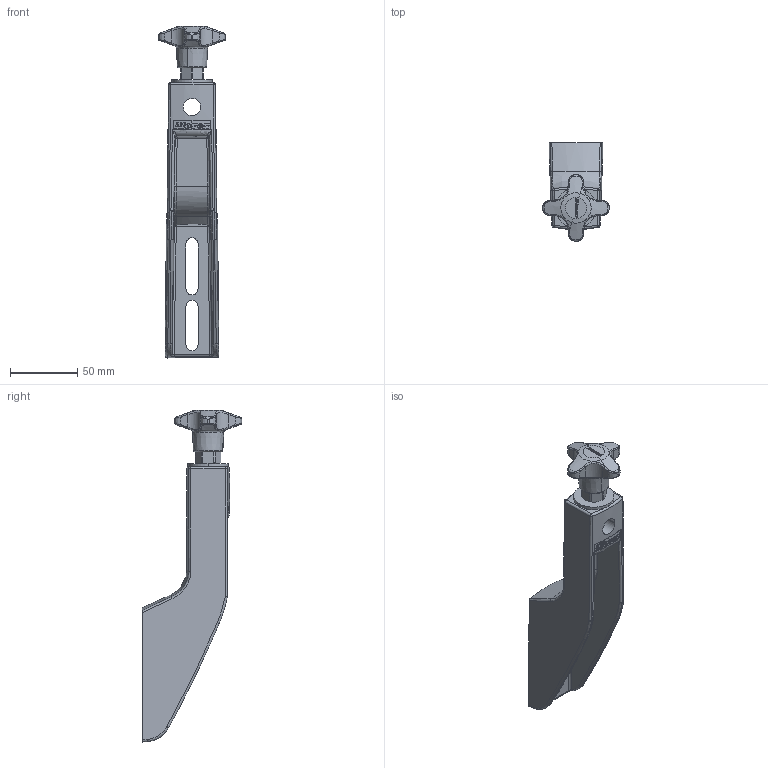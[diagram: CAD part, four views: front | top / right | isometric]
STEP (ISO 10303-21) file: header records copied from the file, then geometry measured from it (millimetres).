
FILE_DESCRIPTION (( 'STEP AP214' ), '1' );
FILE_NAME ('GH5 2M.STEP', '2025-03-06T15:00:37', ( '' ), ( '' ), 'SwSTEP 2.0', 'SolidWorks 2023', '' );
FILE_SCHEMA (( 'AUTOMOTIVE_DESIGN' ));
Length unit declared in the file: millimetre
Products named in the file (1): GH5 2M
Bounding box: 50 x 73.99 x 247.37 mm (x, y, z)
Surface area: 51144.1 mm2 (no closed solid volume)
Topology: 0 solids, 7 shells, 384 faces, 2517 edges, 2091 vertices
Faces by surface type: plane 165, bspline 117, cylinder 56, cone 16, sphere 15, torus 15
Entity records: 34608 total; most frequent: CARTESIAN_POINT 18529, ORIENTED_EDGE 3406, EDGE_CURVE 2507, DIRECTION 2221, VERTEX_POINT 2091, LINE 1317, VECTOR 1317, B_SPLINE_CURVE_WITH_KNOTS 983
